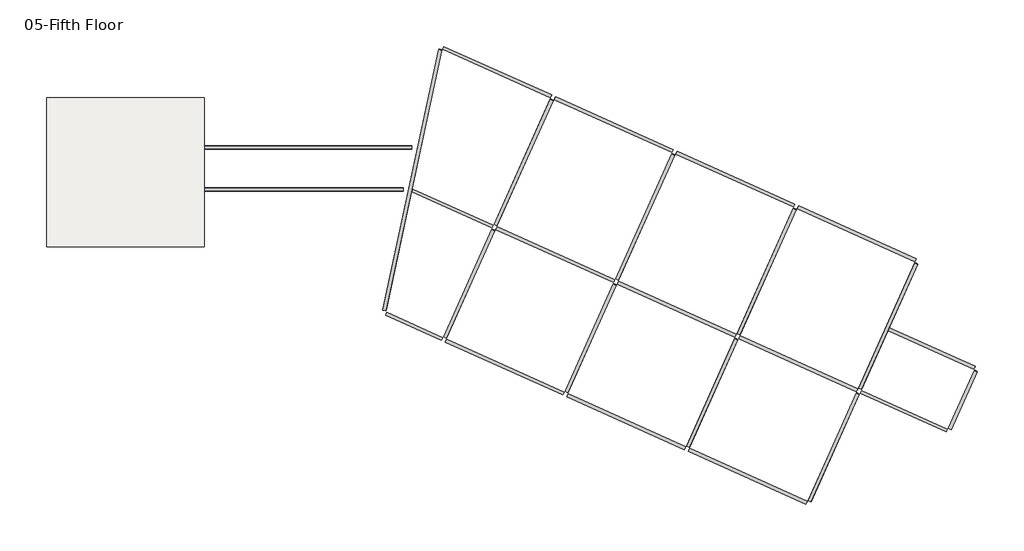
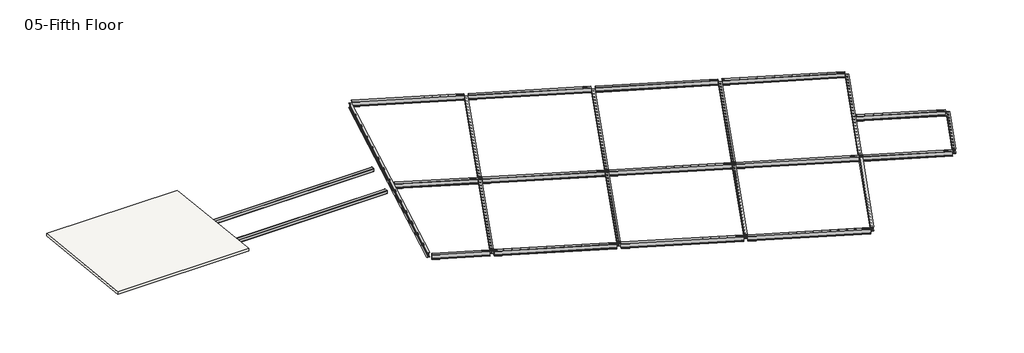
# One storey: 26 beams, 1 slab.
"""IFC4 building model written with IfcOpenShell, lengths in millimetres."""

from ifc_helpers import new_model, si_unit, frame, origin, place, context, project, spatial, polyline, outline, extrude, transform, mapped, element, save
from components import hss_square_hss8x8x3_8_bad9dd2b, hss_square_hss8x8x3_8_38b9e08e, w_shapes_w12x26_8135fd55, w_shapes_w12x26_22116e2b, w_shapes_w12x26_ad648731, w_shapes_w12x26_c2f357ce, w_shapes_w12x26_e6bebfd3, w_shapes_w12x26_969bac88, w_shapes_w12x26_bd244048, w_shapes_w12x26_875e1df2, w_shapes_w12x26_e9ed42f0, w_shapes_w12x26_24b1e7e8, w_shapes_w12x26_b3838ff3, w_shapes_w12x26_b11e058f

model = new_model("IFC4")

# Units and contexts
model_context = context("Model", 3, world=origin())
ifc_project = project(units=[si_unit("LENGTHUNIT", "METRE", prefix="MILLI")], contexts=[model_context])

# Site, building, storey
site = spatial("IfcSite", under=ifc_project)
building = spatial("IfcBuilding", under=site)
storey = spatial("IfcBuildingStorey", under=building, Name="05-Fifth Floor", Elevation=16764.0)

# Beams
placement = place(None, origin())
hss_square_hss8x8x3_8_shape = hss_square_hss8x8x3_8_bad9dd2b(model_context)
element("IfcBeam", 1, ObjectType="HSS Square : HSS8X8X3/8", at=placement, inside=storey, context=model_context, shape_type="MappedRepresentation", body=[
    mapped(hss_square_hss8x8x3_8_shape, transform((23558.6524281, -7505.7, 15951.2), x_axis=(1.0, 0.0, 0.0), y_axis=(0.0, 1.0, 0.0), z_axis=(0.0, 0.0, 1.0))),
])
hss_square_hss8x8x3_8_2_shape = hss_square_hss8x8x3_8_38b9e08e(model_context)
element("IfcBeam", 2, ObjectType="HSS Square : HSS8X8X3/8", at=placement, inside=storey, context=model_context, shape_type="MappedRepresentation", body=[
    mapped(hss_square_hss8x8x3_8_2_shape, transform((23778.5049792, -5295.9, 15951.2), x_axis=(1.0, 0.0, 0.0), y_axis=(0.0, 1.0, 0.0), z_axis=(0.0, 0.0, 1.0))),
])
w_shapes_w12x26_shape = w_shapes_w12x26_8135fd55(model_context)
element("IfcBeam", 3, ObjectType="W Shapes : W12X26", at=placement, inside=storey, context=model_context, shape_type="MappedRepresentation", body=[
    mapped(w_shapes_w12x26_shape, transform((40094.896579, -4085.0634146, 16602.5839183), x_axis=(0.9121951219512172, -0.4097560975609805, 0.0), y_axis=(0.4097560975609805, 0.9121951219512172, 0.0), z_axis=(0.0, 0.0, 1.0))),
])
element("IfcBeam", 4, ObjectType="W Shapes : W12X26", at=placement, inside=storey, context=model_context, shape_type="MappedRepresentation", body=[
    mapped(w_shapes_w12x26_shape, transform((46489.749262, -6957.617561, 16602.5839183), x_axis=(0.912195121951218, -0.40975609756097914, 0.0), y_axis=(0.40975609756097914, 0.912195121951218, 0.0), z_axis=(0.0, 0.0, 1.0))),
])
element("IfcBeam", 5, ObjectType="W Shapes : W12X26", at=placement, inside=storey, context=model_context, shape_type="MappedRepresentation", body=[
    mapped(w_shapes_w12x26_shape, transform((52884.6019449, -9830.1717073, 16602.5839183), x_axis=(0.9121951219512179, -0.40975609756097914, 0.0), y_axis=(0.40975609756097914, 0.9121951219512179, 0.0), z_axis=(0.0, 0.0, 1.0))),
])
element("IfcBeam", 6, ObjectType="W Shapes : W12X26", at=placement, inside=storey, context=model_context, shape_type="MappedRepresentation", body=[
    mapped(w_shapes_w12x26_shape, transform((34360.1960912, -16851.5990244, 15869.1160841), x_axis=(0.9121951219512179, -0.4097560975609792, 0.0), y_axis=(0.4097560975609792, 0.9121951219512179, 0.0), z_axis=(0.0, 0.0, 1.0))),
])
element("IfcBeam", 7, ObjectType="W Shapes : W12X26", at=placement, inside=storey, context=model_context, shape_type="MappedRepresentation", body=[
    mapped(w_shapes_w12x26_shape, transform((40755.0487742, -19724.1531707, 15869.1160841), x_axis=(0.9121951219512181, -0.40975609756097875, 0.0), y_axis=(0.40975609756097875, 0.9121951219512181, 0.0), z_axis=(0.0, 0.0, 1.0))),
])
element("IfcBeam", 8, ObjectType="W Shapes : W12X26", at=placement, inside=storey, context=model_context, shape_type="MappedRepresentation", body=[
    mapped(w_shapes_w12x26_shape, transform((47149.9014571, -22596.7073171, 15869.1160841), x_axis=(0.9121951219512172, -0.40975609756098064, 0.0), y_axis=(0.40975609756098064, 0.9121951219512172, 0.0), z_axis=(0.0, 0.0, 1.0))),
])
element("IfcBeam", 9, ObjectType="W Shapes : W12X26", at=placement, inside=storey, context=model_context, shape_type="MappedRepresentation", body=[
    mapped(w_shapes_w12x26_shape, transform((37019.3902376, -10931.7263415, 16209.2268493), x_axis=(0.9121951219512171, -0.4097560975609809, 0.0), y_axis=(0.4097560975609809, 0.9121951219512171, 0.0), z_axis=(0.0, 0.0, 1.0))),
])
element("IfcBeam", 10, ObjectType="W Shapes : W12X26", at=placement, inside=storey, context=model_context, shape_type="MappedRepresentation", body=[
    mapped(w_shapes_w12x26_shape, transform((43414.2429205, -13804.2804878, 16209.2268493), x_axis=(0.9121951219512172, -0.4097560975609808, 0.0), y_axis=(0.4097560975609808, 0.9121951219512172, 0.0), z_axis=(0.0, 0.0, 1.0))),
])
element("IfcBeam", 11, ObjectType="W Shapes : W12X26", at=placement, inside=storey, context=model_context, shape_type="MappedRepresentation", body=[
    mapped(w_shapes_w12x26_shape, transform((49809.0956034, -16676.8346341, 16209.2268493), x_axis=(0.9121951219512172, -0.40975609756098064, 0.0), y_axis=(0.40975609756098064, 0.9121951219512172, 0.0), z_axis=(0.0, 0.0, 1.0))),
])
w_shapes_w12x26_2_shape = w_shapes_w12x26_22116e2b(model_context)
element("IfcBeam", 12, ObjectType="W Shapes : W12X26", at=placement, inside=storey, context=model_context, shape_type="MappedRepresentation", body=[
    mapped(w_shapes_w12x26_2_shape, transform((29502.9216102, -6989.9466027, 16235.0867039), x_axis=(-0.20925451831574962, -0.976521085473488, -0.051177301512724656), y_axis=(0.9778024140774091, -0.20952908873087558, 0.0), z_axis=(-0.010723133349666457, -0.0500412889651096, 0.9986895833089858))),
])
w_shapes_w12x26_3_shape = w_shapes_w12x26_ad648731(model_context)
element("IfcBeam", 13, ObjectType="W Shapes : W12X26", at=placement, inside=storey, context=model_context, shape_type="MappedRepresentation", body=[
    mapped(w_shapes_w12x26_3_shape, transform((41757.8924345, -8937.275022, 16406.1177237), x_axis=(-0.40919454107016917, -0.9109449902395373, -0.05233595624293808), y_axis=(0.9121951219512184, -0.4097560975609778, 0.0), z_axis=(-0.02144497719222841, -0.04774060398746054, 0.9986295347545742))),
])
element("IfcBeam", 14, ObjectType="W Shapes : W12X26", at=placement, inside=storey, context=model_context, shape_type="MappedRepresentation", body=[
    mapped(w_shapes_w12x26_3_shape, transform((54547.5978004, -14682.3833147, 16406.1177237), x_axis=(-0.4091945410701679, -0.9109449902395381, -0.052335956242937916), y_axis=(0.9121951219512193, -0.40975609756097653, 0.0), z_axis=(-0.021444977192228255, -0.047740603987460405, 0.9986295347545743))),
])
element("IfcBeam", 15, ObjectType="W Shapes : W12X26", at=placement, inside=storey, context=model_context, shape_type="MappedRepresentation", body=[
    mapped(w_shapes_w12x26_3_shape, transform((48152.7451175, -11809.8291684, 16406.1177237), x_axis=(-0.4091945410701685, -0.9109449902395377, -0.05233595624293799), y_axis=(0.9121951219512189, -0.40975609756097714, 0.0), z_axis=(-0.021444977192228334, -0.04774060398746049, 0.9986295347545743))),
])
w_shapes_w12x26_4_shape = w_shapes_w12x26_c2f357ce(model_context)
element("IfcBeam", 16, ObjectType="W Shapes : W12X26", at=placement, inside=storey, context=model_context, shape_type="MappedRepresentation", body=[
    mapped(w_shapes_w12x26_4_shape, transform((38890.5421906, -15320.5428269, 16039.3838066), x_axis=(-0.4091945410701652, -0.9109449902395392, -0.052335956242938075), y_axis=(0.9121951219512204, -0.4097560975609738, 0.0), z_axis=(-0.021444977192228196, -0.047740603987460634, 0.9986295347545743))),
])
element("IfcBeam", 17, ObjectType="W Shapes : W12X26", at=placement, inside=storey, context=model_context, shape_type="MappedRepresentation", body=[
    mapped(w_shapes_w12x26_4_shape, transform((45285.3948736, -18193.0969733, 16039.3838066), x_axis=(-0.4091945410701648, -0.9109449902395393, -0.05233595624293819), y_axis=(0.9121951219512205, -0.4097560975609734, 0.0), z_axis=(-0.02144497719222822, -0.04774060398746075, 0.9986295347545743))),
])
w_shapes_w12x26_5_shape = w_shapes_w12x26_e6bebfd3(model_context)
element("IfcBeam", 18, ObjectType="W Shapes : W12X26", at=placement, inside=storey, context=model_context, shape_type="MappedRepresentation", body=[
    mapped(w_shapes_w12x26_5_shape, transform((33949.1399021, -1324.4026613, 16602.1007534), x_axis=(0.9121951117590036, -0.40975609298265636, 0.0001494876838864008), y_axis=(0.4097560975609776, 0.9121951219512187, 0.0), z_axis=(-0.0001363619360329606, 6.125348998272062e-05, 0.9999999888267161))),
])
w_shapes_w12x26_6_shape = w_shapes_w12x26_969bac88(model_context)
element("IfcBeam", 19, ObjectType="W Shapes : W12X26", at=placement, inside=storey, context=model_context, shape_type="MappedRepresentation", body=[
    mapped(w_shapes_w12x26_6_shape, transform((55369.8370668, -19174.7078049, 16209.2268493), x_axis=(0.9121951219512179, -0.40975609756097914, 0.0), y_axis=(0.40975609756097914, 0.9121951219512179, 0.0), z_axis=(0.0, 0.0, 1.0))),
])
w_shapes_w12x26_7_shape = w_shapes_w12x26_bd244048(model_context)
element("IfcBeam", 20, ObjectType="W Shapes : W12X26", at=placement, inside=storey, context=model_context, shape_type="MappedRepresentation", body=[
    mapped(w_shapes_w12x26_7_shape, transform((58475.7335254, -18583.1764031, 16304.5793701), x_axis=(0.4091875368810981, 0.910929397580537, 0.05266110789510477), y_axis=(-0.9121951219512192, 0.40975609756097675, 0.0), z_axis=(-0.021578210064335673, -0.0480372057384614, 0.9986124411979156))),
])
w_shapes_w12x26_8_shape = w_shapes_w12x26_875e1df2(model_context)
element("IfcBeam", 21, ObjectType="W Shapes : W12X26", at=placement, inside=storey, context=model_context, shape_type="MappedRepresentation", body=[
    mapped(w_shapes_w12x26_8_shape, transform((56847.2176086, -15882.8464901, 16402.7037672), x_axis=(-0.9121944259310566, 0.40975578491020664, 0.0012353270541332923), y_axis=(-0.40975609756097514, -0.9121951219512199, 0.0), z_axis=(0.0011268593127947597, -0.0005061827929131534, 0.9999992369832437))),
])
w_shapes_w12x26_9_shape = w_shapes_w12x26_e9ed42f0(model_context)
element("IfcBeam", 22, ObjectType="W Shapes : W12X26", at=placement, inside=storey, context=model_context, shape_type="MappedRepresentation", body=[
    mapped(w_shapes_w12x26_9_shape, transform((29582.3008004, -14705.3786798, 15868.6329235), x_axis=(0.9121950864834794, -0.40975608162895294, 0.00027886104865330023), y_axis=(0.40975609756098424, 0.9121951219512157, 0.0), z_axis=(-0.00025437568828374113, 0.00011426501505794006, 0.9999999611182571))),
])
w_shapes_w12x26_10_shape = w_shapes_w12x26_24b1e7e8(model_context)
element("IfcBeam", 23, ObjectType="W Shapes : W12X26", at=placement, inside=storey, context=model_context, shape_type="MappedRepresentation", body=[
    mapped(w_shapes_w12x26_10_shape, transform((51680.2475565, -21065.6511196, 16039.3838066), x_axis=(0.4091945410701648, 0.9109449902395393, 0.05233595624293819), y_axis=(-0.9121951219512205, 0.4097560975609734, 0.0), z_axis=(-0.021444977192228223, -0.047740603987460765, 0.9986295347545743))),
])
element("IfcBeam", 24, ObjectType="W Shapes : W12X26", at=placement, inside=storey, context=model_context, shape_type="MappedRepresentation", body=[
    mapped(w_shapes_w12x26_10_shape, transform((32495.6895077, -12447.9886806, 16039.3838066), x_axis=(0.4091945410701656, 0.9109449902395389, 0.052335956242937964), y_axis=(-0.9121951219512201, 0.40975609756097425, 0.0), z_axis=(-0.021444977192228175, -0.04774060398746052, 0.9986295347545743))),
])
w_shapes_w12x26_11_shape = w_shapes_w12x26_b3838ff3(model_context)
element("IfcBeam", 25, ObjectType="W Shapes : W12X26", at=placement, inside=storey, context=model_context, shape_type="MappedRepresentation", body=[
    mapped(w_shapes_w12x26_11_shape, transform((31589.5574958, -8492.6570885, 16213.0695465), x_axis=(-0.9121939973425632, 0.4097555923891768, 0.0015702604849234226), y_axis=(-0.40975609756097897, -0.9121951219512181, 0.0), z_axis=(0.0014323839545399, -0.000643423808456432, 0.9999987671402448))),
])
w_shapes_w12x26_12_shape = w_shapes_w12x26_b11e058f(model_context)
element("IfcBeam", 26, ObjectType="W Shapes : W12X26", at=placement, inside=storey, context=model_context, shape_type="MappedRepresentation", body=[
    mapped(w_shapes_w12x26_12_shape, transform((35363.0397516, -6064.7208757, 16406.1177237), x_axis=(0.4091945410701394, 0.9109449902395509, 0.0523359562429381), y_axis=(-0.9121951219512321, 0.40975609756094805, 0.0), z_axis=(-0.021444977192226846, -0.04774060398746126, 0.9986295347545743))),
])

# Slab
element("IfcSlab", 27, ObjectType="6\" Concrete", at=placement, inside=storey, context=model_context, shape_type="SweptSolid", body=[
    extrude(outline(polyline([(-2679.7, 16610.7605382), (-10502.9, 17433.0119915), (-10502.9, 17586.2514533), (-2679.7, 16764.0), (-2679.7, 16610.7605382)])), frame((10248.9, 0.0, 0.0), z_axis=(1.0, 0.0, 0.0), x_axis=(0.0, 1.0, 0.0)), (0.0, 0.0, 1.0), 8305.8),
])

save(model, "model.ifc")
